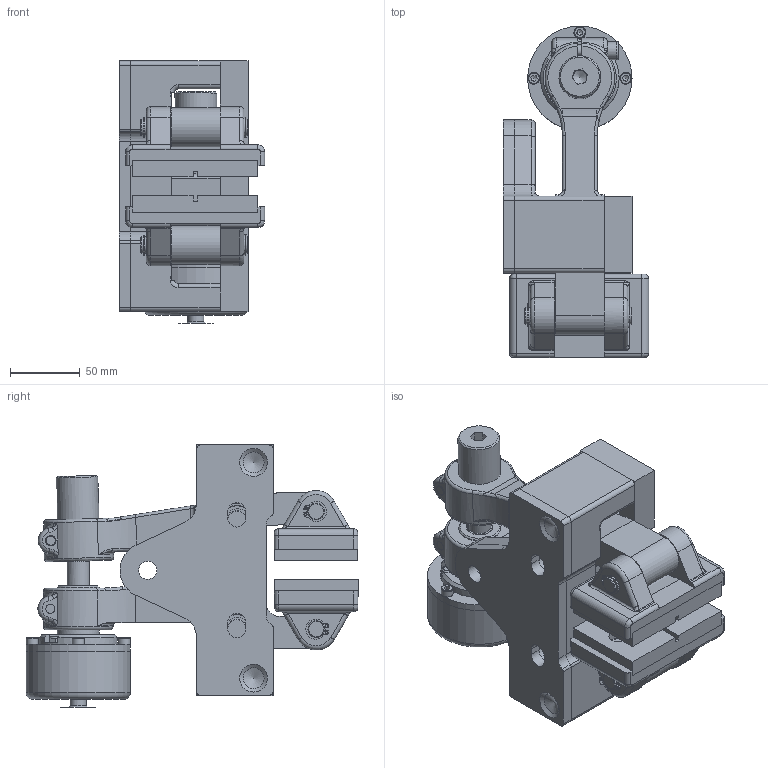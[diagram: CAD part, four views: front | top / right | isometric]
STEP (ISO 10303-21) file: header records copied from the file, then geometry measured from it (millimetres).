
FILE_DESCRIPTION(/* description */ ('','CAx-IF Rec.Pracs.---Representation and Presentation of Product Manufacturing Information (PMI)---4.0---2014-10-13'),/* implementation_level */ '2;1');
FILE_NAME(/* name */ 'X:\INVENTOR\DISEGNI\19_Pinze\STEP x Sito\PNEUM-POSITIVE\19_16_031_03 PPH031_12,7.stp',/* time_stamp */ '2018-02-14T10:21:01+01:00',/* author */ ('stefano'),/* organization */ (''),/* preprocessor_version */ 'ST-DEVELOPER v17',/* originating_system */ 'Autodesk Inventor 2018',/* authorisation */ '');
FILE_SCHEMA (('AP242_MANAGED_MODEL_BASED_3D_ENGINEERING_MIM_LF { 1 0 10303 442 1 1 4 }'));
Length unit declared in the file: millimetre
Products named in the file (1): 19_16_031_03 PPH031_12,7_Substitute_1
Bounding box: 104.5 x 238.5 x 188.25 mm (x, y, z)
Volume: 1629698.8 mm3; surface area: 218326.6 mm2
Topology: 1 solids, 1 shells, 922 faces, 2517 edges, 1631 vertices
Faces by surface type: plane 453, cylinder 268, bspline 70, cone 68, torus 62, sphere 1
Full cylindrical faces by diameter (mm): 1.7 x18, 5 x1, 6 x4, 6.5 x4, 6.647 x1, 8 x2, 8.5 x6, 9.5 x2, 10 x1, 11.445 x1, 11.5 x4, 12 x15, 13 x8, 13.4 x6, 13.5 x2, 14 x12, 16 x6, 16.5 x4, 19 x1, 21 x3, 22.6 x1, 30 x2, 35 x1, 56.5 x1, 75 x2
Entity records: 32598 total; most frequent: CARTESIAN_POINT 8182, DIRECTION 5023, ORIENTED_EDGE 4970, EDGE_CURVE 2485, AXIS2_PLACEMENT_3D 1893, VERTEX_POINT 1631, LINE 1237, VECTOR 1237
